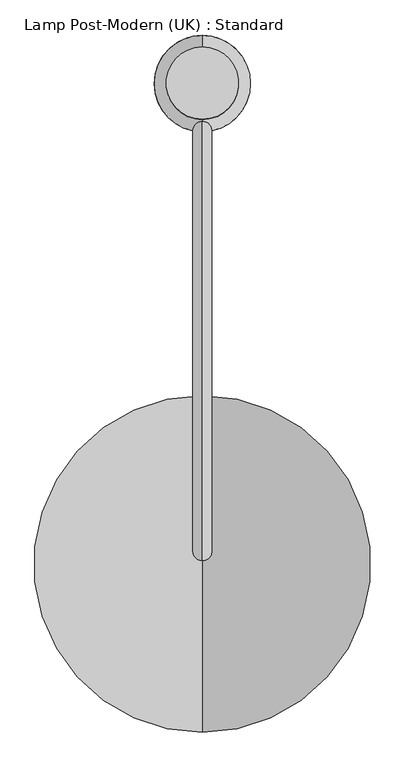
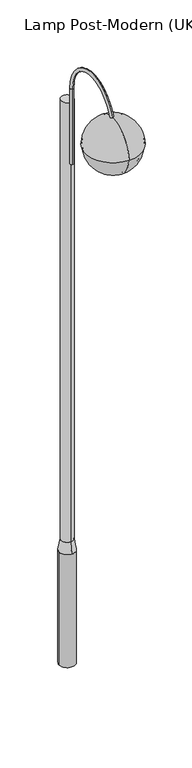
"""IFC4 building model written with IfcOpenShell, lengths in millimetres: light fixture geometry, Lamp Post-Modern (UK) : Standard."""

from ifc_helpers import new_model, si_unit, point, frame, origin, origin_with_axes, origin_2d, place, context, project, spatial, polyline, circle_curve, ellipse_curve, trimmed, segment, composite_curve, outline, extrude, source, transform, mapped, element, save
from ifc_brep_helpers import plane_surface, cylinder_surface, revolved_surface, advanced_brep


def lamp_post_modern_uk_standard_4f9459b1(model_context):
    return source(origin(), model_context, "Body", "SolidModel", [
        extrude(outline(composite_curve([segment(trimmed(circle_curve(origin_2d(), 100.0), [point((-100.0, 0.0))], [point((100.0, 0.0))], False, "CARTESIAN"), True, "CONTINUOUS"), segment(trimmed(circle_curve(origin_2d(), 100.0), [point((100.0, 0.0))], [point((-100.0, 0.0))], False, "CARTESIAN"), True, "CONTINUOUS")], self_intersect=False)), origin_with_axes(), (0.0, 0.0, 1.0), 1500.0),
        extrude(outline(composite_curve([segment(trimmed(circle_curve(origin_2d(), 75.0), [point((0.0, 75.0))], [point((0.0, -75.0))], False, "CARTESIAN"), True, "CONTINUOUS"), segment(trimmed(circle_curve(origin_2d(), 75.0), [point((0.0, -75.0))], [point((0.0, 75.0))], False, "CARTESIAN"), True, "CONTINUOUS")], self_intersect=False)), frame((0.0, 0.0, 1650.0), z_axis=(0.0, 0.0, 1.0), x_axis=(1.0, 0.0, 0.0)), (0.0, 0.0, 1.0), 5850.0),
        advanced_brep(
        [(0.0, 75.0, 1650.0), (0.0, -75.0, 1650.0), (0.0, 100.0, 1500.0), (0.0, -100.0, 1500.0)],
        [
            (0, 1, circle_curve(frame((0.0, 0.0, 1650.0), z_axis=(0.0, 0.0, 1.0), x_axis=(0.0, 1.0, 0.0)), 75.0)),
            (1, 0, circle_curve(frame((0.0, 0.0, 1650.0), z_axis=(0.0, 0.0, 1.0), x_axis=(0.0, -1.0, 0.0)), 75.0)),
            (2, 3, circle_curve(frame((0.0, 0.0, 1500.0), z_axis=(0.0, 0.0, -1.0), x_axis=(0.0, -1.0, 0.0)), 100.0)),
            (3, 2, circle_curve(frame((0.0, 0.0, 1500.0), z_axis=(0.0, 0.0, -1.0), x_axis=(0.0, 1.0, 0.0)), 100.0)),
            (3, 1),
            (0, 2),
        ],
        [
            plane_surface(frame((0.0, 0.0, 1650.0), z_axis=(0.0, 0.0, 1.0), x_axis=(-1.0, 0.0, 0.0))),
            plane_surface(frame((0.0, 0.0, 1500.0), z_axis=(0.0, 0.0, -1.0), x_axis=(-1.0, 0.0, 0.0))),
            revolved_surface(polyline([(0.0, 75.0, 1650.0), (0.0, 100.0, 1500.0)]), (0.0, 0.0, 2100.0), (0.0, 0.0, -1.0)),
            revolved_surface(polyline([(0.0, -75.0, 1650.0), (0.0, -100.0, 1500.0)]), (0.0, 0.0, 2100.0), (0.0, 0.0, -1.0)),
        ],
        [
            (0, [[1, 2]]),
            (1, [[3, 4]]),
            (2, [[-4, 5, -1, 6]]),
            (3, [[-3, -6, -2, -5]]),
        ],
    ),
        advanced_brep(
        [(0.0, -80.0, 6700.0), (0.0, -120.0, 6700.0), (0.0, -80.0, 7700.0), (0.0, -120.0, 7700.0), (0.0, -1020.0, 7700.0), (0.0, -980.0, 7700.0)],
        [
            (0, 1, circle_curve(frame((0.0, -100.0, 6700.0), z_axis=(0.0, 0.0, -1.0), x_axis=(0.0, -1.0, 0.0)), 20.0)),
            (1, 0, circle_curve(frame((0.0, -100.0, 6700.0), z_axis=(0.0, 0.0, -1.0), x_axis=(0.0, -1.0, 0.0)), 20.0)),
            (0, 2),
            (2, 3, circle_curve(frame((0.0, -100.0, 7700.0), z_axis=(0.0, 0.0, -1.0), x_axis=(0.0, -1.0, 0.0)), 20.0)),
            (3, 1),
            (3, 2, circle_curve(frame((0.0, -100.0, 7700.0), z_axis=(0.0, 0.0, -1.0), x_axis=(0.0, -1.0, 0.0)), 20.0)),
            (4, 5, circle_curve(frame((0.0, -1000.0, 7700.0), z_axis=(0.0, 0.0, -1.0), x_axis=(0.0, 1.0, 0.0)), 20.0)),
            (5, 4, circle_curve(frame((0.0, -1000.0, 7700.0), z_axis=(0.0, 0.0, -1.0), x_axis=(0.0, 1.0, 0.0)), 20.0)),
            (5, 3, circle_curve(frame((0.0, -550.0, 7700.0), z_axis=(-1.0, 0.0, 0.0), x_axis=(0.0, 1.0, 0.0)), 430.0)),
            (2, 4, circle_curve(frame((0.0, -550.0, 7700.0), z_axis=(1.0, 0.0, 0.0), x_axis=(0.0, 1.0, 0.0)), 470.0)),
        ],
        [
            plane_surface(frame((0.0, -100.0, 6700.0), z_axis=(0.0, 0.0, -1.0), x_axis=(1.0, 0.0, 0.0))),
            cylinder_surface(frame((0.0, -100.0, 6700.0), z_axis=(0.0, 0.0, -1.0), x_axis=(0.0, -1.0, 0.0)), 20.0),
            plane_surface(frame((0.0, -1000.0, 7700.0), z_axis=(0.0, 0.0, -1.0), x_axis=(1.0, 0.0, 0.0))),
            revolved_surface(trimmed(ellipse_curve(frame((0.0, -100.0, 7700.0), z_axis=(0.0, 0.0, -1.0), x_axis=(0.0, -1.0, 0.0)), 20.0, 20.0), [point((0.0, -80.0, 7700.0))], [point((0.0, -120.0, 7700.0))], True, "CARTESIAN"), (0.0, -550.0, 7700.0), (1.0, 0.0, 0.0)),
            revolved_surface(trimmed(ellipse_curve(frame((0.0, -100.0, 7700.0), z_axis=(0.0, 0.0, -1.0), x_axis=(0.0, -1.0, 0.0)), 20.0, 20.0), [point((0.0, -120.0, 7700.0))], [point((0.0, -80.0, 7700.0))], True, "CARTESIAN"), (0.0, -550.0, 7700.0), (1.0, 0.0, 0.0)),
        ],
        [
            (0, [[1, 2]]),
            (1, [[-1, 3, 4, 5]]),
            (1, [[-2, -5, 6, -3]]),
            (2, [[7, 8]]),
            (3, [[9, -4, 10, -8]]),
            (4, [[-10, -6, -9, -7]]),
        ],
    ),
        advanced_brep(
        [(0.0, -1340.0, 7500.0), (0.0, -660.0, 7500.0), (0.0, -1000.0, 7840.0), (0.0, -1350.0, 7500.0), (0.0, -650.0, 7500.0), (0.0, -1000.0, 7850.0)],
        [
            (0, 1, circle_curve(frame((0.0, -1000.0, 7500.0), z_axis=(0.0, 0.0, -1.0), x_axis=(0.0, 1.0, 0.0)), 340.0)),
            (1, 2, circle_curve(frame((0.0, -1000.0, 7500.0), z_axis=(1.0, 0.0, 0.0), x_axis=(0.0, 1.0, 0.0)), 340.0)),
            (2, 0, circle_curve(frame((0.0, -1000.0, 7500.0), z_axis=(1.0, 0.0, 0.0), x_axis=(0.0, -1.0, 0.0)), 340.0)),
            (1, 0, circle_curve(frame((0.0, -1000.0, 7500.0), z_axis=(0.0, 0.0, -1.0), x_axis=(0.0, 1.0, 0.0)), 340.0)),
            (3, 4, circle_curve(frame((0.0, -1000.0, 7500.0), z_axis=(0.0, 0.0, -1.0), x_axis=(0.0, 1.0, 0.0)), 350.0)),
            (4, 1),
            (0, 3),
            (4, 3, circle_curve(frame((0.0, -1000.0, 7500.0), z_axis=(0.0, 0.0, -1.0), x_axis=(0.0, 1.0, 0.0)), 350.0)),
            (5, 4, circle_curve(frame((0.0, -1000.0, 7500.0), z_axis=(-1.0, 0.0, 0.0), x_axis=(0.0, 1.0, 0.0)), 350.0)),
            (3, 5, circle_curve(frame((0.0, -1000.0, 7500.0), z_axis=(-1.0, 0.0, 0.0), x_axis=(0.0, -1.0, 0.0)), 350.0)),
        ],
        [
            revolved_surface(trimmed(ellipse_curve(frame((0.0, -1000.0, 7500.0), z_axis=(-1.0, 0.0, 0.0), x_axis=(0.0, 1.0, 0.0)), 340.0, 340.0), [point((0.0, -1000.0, 7840.0))], [point((0.0, -660.0, 7500.0))], True, "CARTESIAN"), (0.0, -1000.0, 8753.0), (0.0, 0.0, 1.0)),
            plane_surface(frame((0.0, -1000.0, 7500.0), z_axis=(0.0, 0.0, -1.0), x_axis=(0.0, 1.0, 0.0))),
            revolved_surface(trimmed(ellipse_curve(frame((0.0, -1000.0, 7500.0), z_axis=(1.0, 0.0, 0.0), x_axis=(0.0, 1.0, 0.0)), 350.0, 350.0), [point((0.0, -650.0, 7500.0))], [point((0.0, -1000.0, 7850.0))], True, "CARTESIAN"), (0.0, -1000.0, 8753.0), (0.0, 0.0, 1.0)),
        ],
        [
            (0, [[1, 2, 3]]),
            (0, [[4, -3, -2]]),
            (1, [[5, 6, -1, 7]]),
            (1, [[8, -7, -4, -6]]),
            (2, [[9, -5, 10]]),
            (2, [[-10, -8, -9]]),
        ],
    ),
        advanced_brep(
        [(0.0, -1000.0, 7181.5952722), (0.0, -680.0042211, 7499.9516584), (0.0, -1319.9957789, 7499.9516584), (0.0, -1339.9960272, 7499.9516584), (0.0, -660.0039728, 7499.9516584), (0.0, -1000.0, 7161.5952722)],
        [
            (0, 1, circle_curve(frame((0.0, -1000.0, 7501.5952722), z_axis=(1.0, 0.0, 0.0), x_axis=(0.0, 1.0, 0.0)), 320.0)),
            (1, 2, circle_curve(frame((0.0, -1000.0, 7499.9516584), z_axis=(0.0, 0.0, 1.0), x_axis=(0.0, 1.0, 0.0)), 319.9957789)),
            (2, 0, circle_curve(frame((0.0, -1000.0, 7501.5952722), z_axis=(1.0, 0.0, 0.0), x_axis=(0.0, -1.0, 0.0)), 320.0)),
            (2, 1, circle_curve(frame((0.0, -1000.0, 7499.9516584), z_axis=(0.0, 0.0, 1.0), x_axis=(0.0, 1.0, 0.0)), 319.9957789)),
            (3, 4, circle_curve(frame((0.0, -1000.0, 7499.9516584), z_axis=(0.0, 0.0, -1.0), x_axis=(0.0, 1.0, 0.0)), 339.9960272)),
            (4, 5, circle_curve(frame((0.0, -1000.0, 7501.5952722), z_axis=(-1.0, 0.0, 0.0), x_axis=(0.0, 1.0, 0.0)), 340.0)),
            (5, 3, circle_curve(frame((0.0, -1000.0, 7501.5952722), z_axis=(-1.0, 0.0, 0.0), x_axis=(0.0, -1.0, 0.0)), 340.0)),
            (4, 3, circle_curve(frame((0.0, -1000.0, 7499.9516584), z_axis=(0.0, 0.0, -1.0), x_axis=(0.0, 1.0, 0.0)), 339.9960272)),
            (1, 4),
            (3, 2),
        ],
        [
            revolved_surface(trimmed(ellipse_curve(frame((0.0, -1000.0, 7501.5952722), z_axis=(-1.0, 0.0, 0.0), x_axis=(0.0, 1.0, 0.0)), 320.0, 320.0), [point((0.0, -680.0042211, 7499.9516584))], [point((0.0, -1000.0, 7181.5952722))], True, "CARTESIAN"), (0.0, -1000.0, 8198.2745155), (0.0, 0.0, 1.0)),
            revolved_surface(trimmed(ellipse_curve(frame((0.0, -1000.0, 7501.5952722), z_axis=(1.0, 0.0, 0.0), x_axis=(0.0, 1.0, 0.0)), 340.0, 340.0), [point((0.0, -1000.0, 7161.5952722))], [point((0.0, -660.0039728, 7499.9516584))], True, "CARTESIAN"), (0.0, -1000.0, 8198.2745155), (0.0, 0.0, 1.0)),
            plane_surface(frame((0.0, -1000.0, 7499.9516584), z_axis=(0.0, 0.0, 1.0), x_axis=(0.0, 1.0, 0.0))),
        ],
        [
            (0, [[1, 2, 3]]),
            (0, [[-3, 4, -1]]),
            (1, [[5, 6, 7]]),
            (1, [[8, -7, -6]]),
            (2, [[-2, 9, -5, 10]]),
            (2, [[-4, -10, -8, -9]]),
        ],
    ),
    ])


if __name__ == "__main__":
    model = new_model("IFC4")
    model_context = context("Model", 3, world=origin())
    ifc_project = project(units=[si_unit("LENGTHUNIT", "METRE", prefix="MILLI")], contexts=[model_context])
    site = spatial("IfcSite", under=ifc_project)
    building = spatial("IfcBuilding", under=site)
    placement = place(None, origin())
    lamp_post_modern_uk_standard_shape = lamp_post_modern_uk_standard_4f9459b1(model_context)
    element("IfcLightFixture", 1, ObjectType="Lamp Post-Modern (UK) : Standard", at=placement, inside=building, context=model_context, shape_type="MappedRepresentation", body=[
        mapped(lamp_post_modern_uk_standard_shape, transform((0.0, 0.0, 0.0), x_axis=(1.0, 0.0, 0.0), y_axis=(0.0, 1.0, 0.0), z_axis=(0.0, 0.0, 1.0))),
    ])
    save(model, "model.ifc")
